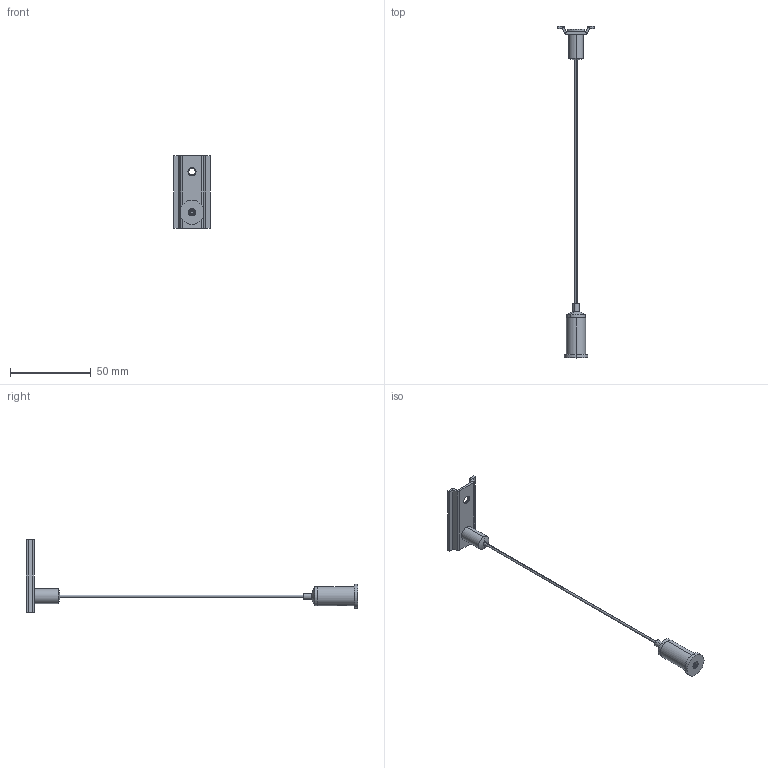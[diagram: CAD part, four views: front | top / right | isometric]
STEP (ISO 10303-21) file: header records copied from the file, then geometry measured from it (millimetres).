
FILE_DESCRIPTION (( 'STEP AP203' ), '1' );
FILE_NAME ('吊线组.STEP', '2023-06-21T07:10:06', ( '微软用户' ), ( '微软中国' ), 'SwSTEP 2.0', 'SolidWorks 2014', '' );
FILE_SCHEMA (( 'CONFIG_CONTROL_DESIGN' ));
Length unit declared in the file: millimetre
Products named in the file (7): 詩坰汋; 裂盄郪毞豪翐; 裂盄郪嘐隅翐; 裂盄郪嘐隅啣; 裂盄郪蹟佪; 裂盄郪嘐盄翐; 裂盄郪
Assembly tree (6 placements, depth 2):
  裂盄郪
    裂盄郪毞豪翐
    裂盄郪嘐盄翐
    詩坰汋
    裂盄郪嘐隅翐
    裂盄郪嘐隅啣
    裂盄郪蹟佪
Bounding box: 22.5 x 205 x 45 mm (x, y, z)
Volume: 5494.8 mm3; surface area: 7502 mm2
Topology: 6 solids, 6 shells, 106 faces, 214 edges, 122 vertices
Faces by surface type: plane 46, cylinder 38, cone 16, torus 4, bspline 2
Entity records: 3587 total; most frequent: CARTESIAN_POINT 573, DIRECTION 530, ORIENTED_EDGE 428, EDGE_CURVE 214, AXIS2_PLACEMENT_3D 207, VERTEX_POINT 122, EDGE_LOOP 120, VECTOR 116
